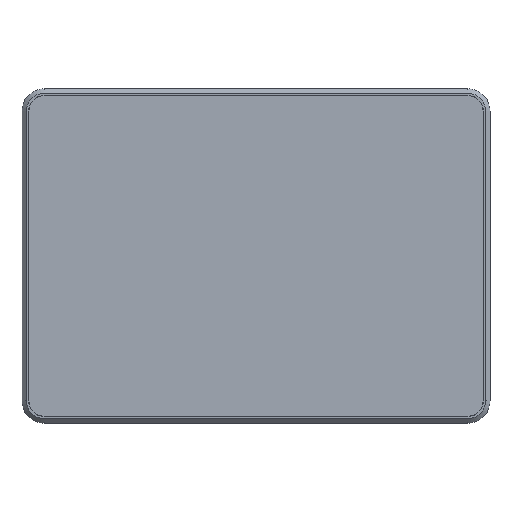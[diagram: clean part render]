
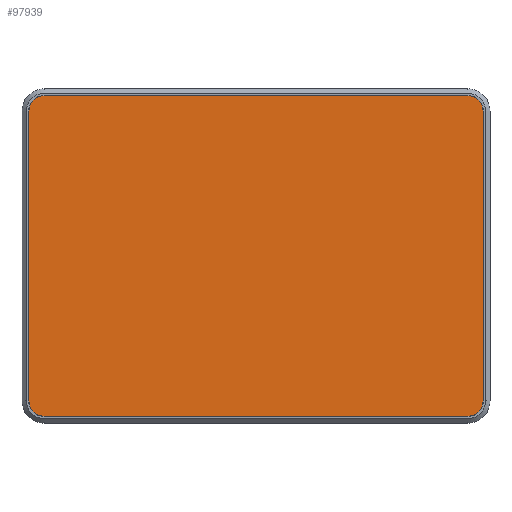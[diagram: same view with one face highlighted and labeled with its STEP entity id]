
A CAD part, top view. The second image highlights one B-rep face of the part: STEP entity #97939.
In plain terms, the highlighted planar face has unit normal (0, 0, 1).
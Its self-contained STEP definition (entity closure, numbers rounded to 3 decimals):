
#29087=CARTESIAN_POINT('',(95.,65.,23.4));
#29088=DIRECTION('',(0.,0.,-1.));
#29089=DIRECTION('',(0.,1.,0.));
#29090=AXIS2_PLACEMENT_3D('',#29087,#29088,#29089);
#29092=DIRECTION('',(0.,-1.,0.));
#29093=VECTOR('',#29092,130.);
#29094=CARTESIAN_POINT('',(101.9,65.,23.4));
#29095=LINE('',#29094,#29093);
#29096=CARTESIAN_POINT('',(95.,-65.,23.4));
#29097=DIRECTION('',(0.,0.,-1.));
#29098=DIRECTION('',(1.,0.,0.));
#29099=AXIS2_PLACEMENT_3D('',#29096,#29097,#29098);
#29101=DIRECTION('',(-1.,0.,0.));
#29102=VECTOR('',#29101,190.);
#29103=CARTESIAN_POINT('',(95.,-71.9,23.4));
#29104=LINE('',#29103,#29102);
#29105=CARTESIAN_POINT('',(-95.,-65.,23.4));
#29106=DIRECTION('',(0.,0.,-1.));
#29107=DIRECTION('',(0.,-1.,0.));
#29108=AXIS2_PLACEMENT_3D('',#29105,#29106,#29107);
#29110=DIRECTION('',(0.,1.,0.));
#29111=VECTOR('',#29110,130.);
#29112=CARTESIAN_POINT('',(-101.9,-65.,23.4));
#29113=LINE('',#29112,#29111);
#29114=CARTESIAN_POINT('',(-95.,65.,23.4));
#29115=DIRECTION('',(0.,0.,-1.));
#29116=DIRECTION('',(-1.,0.,0.));
#29117=AXIS2_PLACEMENT_3D('',#29114,#29115,#29116);
#29119=DIRECTION('',(1.,0.,0.));
#29120=VECTOR('',#29119,190.);
#29121=CARTESIAN_POINT('',(-95.,71.9,23.4));
#29122=LINE('',#29121,#29120);
#39832=CARTESIAN_POINT('',(-101.9,65.,23.4));
#39833=VERTEX_POINT('',#39832);
#39834=CARTESIAN_POINT('',(-101.9,-65.,23.4));
#39835=VERTEX_POINT('',#39834);
#39836=CARTESIAN_POINT('',(-95.,71.9,23.4));
#39837=VERTEX_POINT('',#39836);
#39838=CARTESIAN_POINT('',(95.,71.9,23.4));
#39839=VERTEX_POINT('',#39838);
#39840=CARTESIAN_POINT('',(101.9,65.,23.4));
#39841=VERTEX_POINT('',#39840);
#39842=CARTESIAN_POINT('',(101.9,-65.,23.4));
#39843=VERTEX_POINT('',#39842);
#39844=CARTESIAN_POINT('',(95.,-71.9,23.4));
#39845=VERTEX_POINT('',#39844);
#39846=CARTESIAN_POINT('',(-95.,-71.9,23.4));
#39847=VERTEX_POINT('',#39846);
#97924=CARTESIAN_POINT('',(0.,0.,23.4));
#97925=DIRECTION('',(0.,0.,1.));
#97926=DIRECTION('',(1.,0.,0.));
#97927=AXIS2_PLACEMENT_3D('',#97924,#97925,#97926);
#97928=PLANE('',#97927);
#97929=ORIENTED_EDGE('',*,*,#97828,.T.);
#97930=ORIENTED_EDGE('',*,*,#97849,.T.);
#97931=ORIENTED_EDGE('',*,*,#97870,.T.);
#97932=ORIENTED_EDGE('',*,*,#97891,.T.);
#97933=ORIENTED_EDGE('',*,*,#97911,.T.);
#97934=ORIENTED_EDGE('',*,*,#97764,.T.);
#97935=ORIENTED_EDGE('',*,*,#97786,.T.);
#97936=ORIENTED_EDGE('',*,*,#97807,.T.);
#97937=EDGE_LOOP('',(#97929,#97930,#97931,#97932,#97933,#97934,#97935,#97936));
#97938=FACE_OUTER_BOUND('',#97937,.F.);
#29091=CIRCLE('',#29090,6.9);
#29100=CIRCLE('',#29099,6.9);
#29109=CIRCLE('',#29108,6.9);
#29118=CIRCLE('',#29117,6.9);
#97764=EDGE_CURVE('',#39835,#39833,#29113,.T.);
#97786=EDGE_CURVE('',#39833,#39837,#29118,.T.);
#97807=EDGE_CURVE('',#39837,#39839,#29122,.T.);
#97828=EDGE_CURVE('',#39839,#39841,#29091,.T.);
#97849=EDGE_CURVE('',#39841,#39843,#29095,.T.);
#97870=EDGE_CURVE('',#39843,#39845,#29100,.T.);
#97891=EDGE_CURVE('',#39845,#39847,#29104,.T.);
#97911=EDGE_CURVE('',#39847,#39835,#29109,.T.);
#97939=ADVANCED_FACE('',(#97938),#97928,.T.);
